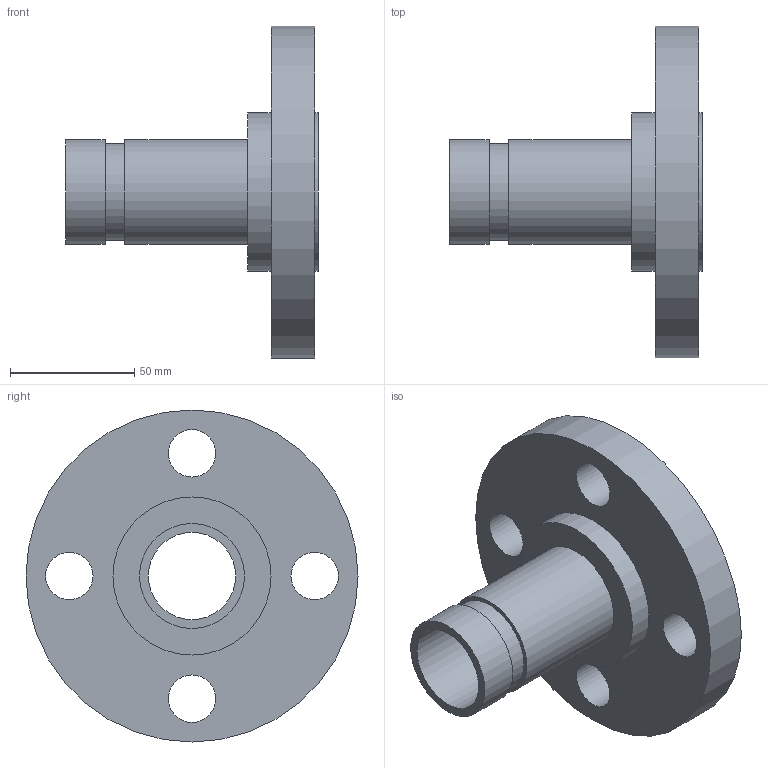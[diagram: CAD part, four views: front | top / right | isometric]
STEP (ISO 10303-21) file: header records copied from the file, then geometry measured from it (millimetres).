
FILE_DESCRIPTION(/* description */ ('VIC FLANGE ADAPTER No 46R','CAx-IF Rec.Pracs.---Representation and Presentation of Product Manufacturing Information (PMI)---4.0---2014-10-13'),/* implementation_level */ '2;1');
FILE_NAME(/* name */ 'C:\Users\kkamble\AppData\Roaming\Autodesk\ApplicationPlugins\Back Up\Victaulic_IPS_Flanged Adapter Nipple_CL 300 RF_No 46R (OGSxFLG)\Victaulic_IPS_Flanged Adapter Nipple_CL 300 RF_No 46R (OGSxFLG)_1.25 (32).stp',/* time_stamp */ '2020-07-26T22:25:31+06:00',/* author */ ('CONSTRUCTION PIPING SERVICES'),/* organization */ ('Victaulic'),/* preprocessor_version */ 'ST-DEVELOPER v17.2',/* originating_system */ 'Autodesk Inventor 2019',/* authorisation */ '');
FILE_SCHEMA (('AP242_MANAGED_MODEL_BASED_3D_ENGINEERING_MIM_LF { 1 0 10303 442 1 1 4 }'));
Length unit declared in the file: inch
Products named in the file (1): 046R-01.25
Bounding box: 101.6 x 133.35 x 133.35 mm (x, y, z)
Volume: 261868.9 mm3; surface area: 58642.1 mm2
Topology: 1 solids, 1 shells, 18 faces, 47 edges, 36 vertices
Faces by surface type: cylinder 11, plane 7
Full cylindrical faces by diameter (mm): 19.05 x4, 35.052 x1, 38.989 x1, 42.164 x2, 63.5 x2, 133.35 x1
Entity records: 689 total; most frequent: DIRECTION 121, CARTESIAN_POINT 102, ORIENTED_EDGE 94, AXIS2_PLACEMENT_3D 55, EDGE_CURVE 47, CIRCLE 36, VERTEX_POINT 36, EDGE_LOOP 33
